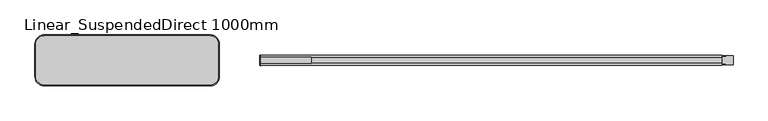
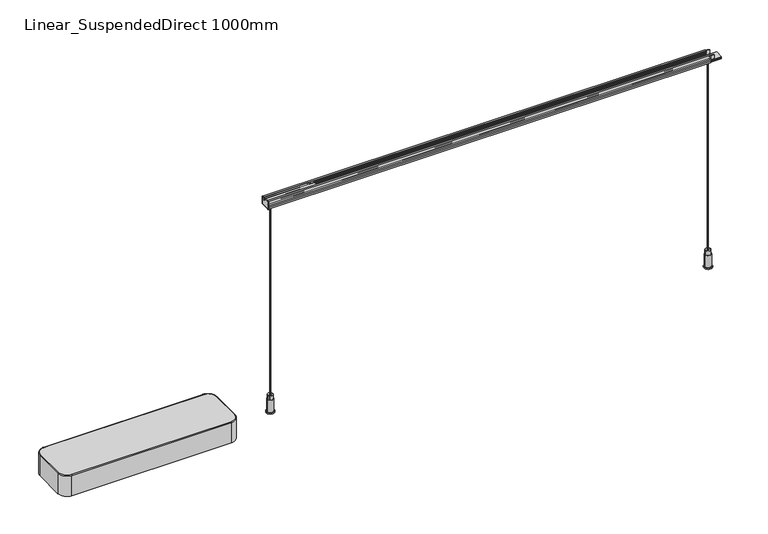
"""IFC4 building model written with IfcOpenShell, lengths in millimetres: light fixture geometry, ARTEMIDE-TurnAround-Linear_SuspendedDirect : Linear_SuspendedDirect 1000mm."""

from ifc_helpers import new_model, si_unit, point, frame, frame_2d, origin, origin_with_axes, place, context, project, spatial, polyline, circle_curve, ellipse_curve, trimmed, segment, composite_curve, outline, extrude, source, transform, mapped, element, save
from ifc_brep_helpers import plane_surface, cylinder_surface, revolved_surface, advanced_brep


def linear_suspendeddirect_1000mm_eee0d3e0(model_context):
    return source(origin(), model_context, "Body", "SolidModel", [
        advanced_brep(
        [(-109.8389602, -55.0879179, 0.0), (-470.1610045, -55.0879179, 0.0), (-490.1610045, -35.0879179, 0.0), (-490.1610045, 35.0879179, 0.0), (-470.1610045, 55.0879179, 0.0), (-109.8389602, 55.0879179, 0.0), (-89.8389602, 35.0879179, 0.0), (-89.8389602, -35.0879179, 0.0), (-109.8389602, -53.0879179, 0.0), (-91.8389602, -35.0879179, 0.0), (-91.8389602, 35.0879179, 0.0), (-109.8389602, 53.0879179, 0.0), (-470.1610045, 53.0879179, 0.0), (-488.1610045, 35.0879179, 0.0), (-488.1610045, -35.0879179, 0.0), (-470.1610045, -53.0879179, 0.0), (-488.1610045, -35.0879179, 50.0), (-470.1610045, -53.0879179, 50.0), (-109.8389602, -53.0879179, 50.0), (-91.8389602, -35.0879179, 50.0), (-91.8389602, 35.0879179, 50.0), (-109.8389602, 53.0879179, 50.0), (-470.1610045, 53.0879179, 50.0), (-488.1610045, 35.0879179, 50.0), (-109.8389602, -55.0879179, 48.0), (-470.1610045, -55.0879179, 48.0), (-490.1610045, -35.0879179, 48.0), (-490.1610045, 35.0879179, 48.0), (-470.1610045, 55.0879179, 48.0), (-109.8389602, 55.0879179, 48.0), (-89.8389602, 35.0879179, 48.0), (-89.8389602, -35.0879179, 48.0), (-109.8389602, -53.0879179, 48.0), (-91.8389602, -35.0879179, 48.0), (-91.8389602, 35.0879179, 48.0), (-109.8389602, 53.0879179, 48.0), (-470.1610045, 53.0879179, 48.0), (-488.1610045, 35.0879179, 48.0), (-488.1610045, -35.0879179, 48.0), (-470.1610045, -53.0879179, 48.0)],
        [
            (0, 1),
            (1, 2, circle_curve(frame((-470.1610045, -35.0879179, 0.0), z_axis=(0.0, 0.0, -1.0), x_axis=(-1.0, 0.0, 0.0)), 20.0)),
            (2, 3),
            (3, 4, circle_curve(frame((-470.1610045, 35.0879179, 0.0), z_axis=(0.0, 0.0, -1.0), x_axis=(-1.0, 0.0, 0.0)), 20.0)),
            (4, 5),
            (5, 6, circle_curve(frame((-109.8389602, 35.0879179, 0.0), z_axis=(0.0, 0.0, -1.0), x_axis=(-1.0, 0.0, 0.0)), 20.0)),
            (6, 7),
            (7, 0, circle_curve(frame((-109.8389602, -35.0879179, 0.0), z_axis=(0.0, 0.0, -1.0), x_axis=(-1.0, 0.0, 0.0)), 20.0)),
            (8, 9, circle_curve(frame((-109.8389602, -35.0879179, 0.0), z_axis=(0.0, 0.0, 1.0), x_axis=(-1.0, 0.0, 0.0)), 18.0)),
            (9, 10),
            (10, 11, circle_curve(frame((-109.8389602, 35.0879179, 0.0), z_axis=(0.0, 0.0, 1.0), x_axis=(-1.0, 0.0, 0.0)), 18.0)),
            (11, 12),
            (12, 13, circle_curve(frame((-470.1610045, 35.0879179, 0.0), z_axis=(0.0, 0.0, 1.0), x_axis=(-1.0, 0.0, 0.0)), 18.0)),
            (13, 14),
            (14, 15, circle_curve(frame((-470.1610045, -35.0879179, 0.0), z_axis=(0.0, 0.0, 1.0), x_axis=(-1.0, 0.0, 0.0)), 18.0)),
            (15, 8),
            (16, 17, circle_curve(frame((-470.1610045, -35.0879179, 50.0), z_axis=(0.0, 0.0, 1.0), x_axis=(-1.0, 0.0, 0.0)), 18.0)),
            (17, 18),
            (18, 19, circle_curve(frame((-109.8389602, -35.0879179, 50.0), z_axis=(0.0, 0.0, 1.0), x_axis=(0.0, -1.0, 0.0)), 18.0)),
            (19, 20),
            (20, 21, circle_curve(frame((-109.8389602, 35.0879179, 50.0), z_axis=(0.0, 0.0, 1.0), x_axis=(1.0, 0.0, 0.0)), 18.0)),
            (21, 22),
            (22, 23, circle_curve(frame((-470.1610045, 35.0879179, 50.0), z_axis=(0.0, 0.0, 1.0), x_axis=(0.0, 1.0, 0.0)), 18.0)),
            (23, 16),
            (0, 24),
            (24, 25),
            (25, 1),
            (2, 26),
            (26, 27),
            (27, 3),
            (4, 28),
            (28, 29),
            (29, 5),
            (6, 30),
            (30, 31),
            (31, 7),
            (25, 26, circle_curve(frame((-470.1610045, -35.0879179, 48.0), z_axis=(0.0, 0.0, -1.0), x_axis=(-1.0, 0.0, 0.0)), 20.0)),
            (27, 28, circle_curve(frame((-470.1610045, 35.0879179, 48.0), z_axis=(0.0, 0.0, -1.0), x_axis=(-1.0, 0.0, 0.0)), 20.0)),
            (29, 30, circle_curve(frame((-109.8389602, 35.0879179, 48.0), z_axis=(0.0, 0.0, -1.0), x_axis=(-1.0, 0.0, 0.0)), 20.0)),
            (31, 24, circle_curve(frame((-109.8389602, -35.0879179, 48.0), z_axis=(0.0, 0.0, -1.0), x_axis=(-1.0, 0.0, 0.0)), 20.0)),
            (8, 32),
            (32, 33, circle_curve(frame((-109.8389602, -35.0879179, 48.0), z_axis=(0.0, 0.0, 1.0), x_axis=(-1.0, 0.0, 0.0)), 18.0)),
            (33, 9),
            (33, 34),
            (34, 10),
            (34, 35, circle_curve(frame((-109.8389602, 35.0879179, 48.0), z_axis=(0.0, 0.0, 1.0), x_axis=(-1.0, 0.0, 0.0)), 18.0)),
            (35, 11),
            (35, 36),
            (36, 12),
            (36, 37, circle_curve(frame((-470.1610045, 35.0879179, 48.0), z_axis=(0.0, 0.0, 1.0), x_axis=(-1.0, 0.0, 0.0)), 18.0)),
            (37, 13),
            (37, 38),
            (38, 14),
            (38, 39, circle_curve(frame((-470.1610045, -35.0879179, 48.0), z_axis=(0.0, 0.0, 1.0), x_axis=(-1.0, 0.0, 0.0)), 18.0)),
            (39, 15),
            (39, 32),
            (25, 17, circle_curve(frame((-470.1610045, -53.0879179, 48.0), z_axis=(-1.0, 0.0, 0.0), x_axis=(0.0, 1.0, 0.0)), 2.0)),
            (16, 26, circle_curve(frame((-488.1610045, -35.0879179, 48.0), z_axis=(0.0, -1.0, 0.0), x_axis=(1.0, 0.0, 0.0)), 2.0)),
            (24, 18, circle_curve(frame((-109.8389602, -53.0879179, 48.0), z_axis=(-1.0, 0.0, 0.0), x_axis=(0.0, 1.0, 0.0)), 2.0)),
            (31, 19, circle_curve(frame((-91.8389602, -35.0879179, 48.0), z_axis=(0.0, -1.0, 0.0), x_axis=(-1.0, 0.0, 0.0)), 2.0)),
            (30, 20, circle_curve(frame((-91.8389602, 35.0879179, 48.0), z_axis=(0.0, -1.0, 0.0), x_axis=(-1.0, 0.0, 0.0)), 2.0)),
            (29, 21, circle_curve(frame((-109.8389602, 53.0879179, 48.0), z_axis=(1.0, 0.0, 0.0), x_axis=(0.0, -1.0, 0.0)), 2.0)),
            (28, 22, circle_curve(frame((-470.1610045, 53.0879179, 48.0), z_axis=(1.0, 0.0, 0.0), x_axis=(0.0, -1.0, 0.0)), 2.0)),
            (27, 23, circle_curve(frame((-488.1610045, 35.0879179, 48.0), z_axis=(0.0, 1.0, 0.0), x_axis=(1.0, 0.0, 0.0)), 2.0)),
        ],
        [
            plane_surface(frame((-470.1610045, -55.0879179, 0.0), z_axis=(0.0, 0.0, -1.0), x_axis=(-1.0, 0.0, 0.0))),
            plane_surface(frame((-470.1610045, -55.0879179, 50.0), z_axis=(0.0, 0.0, 1.0), x_axis=(1.0, 0.0, 0.0))),
            plane_surface(frame((-109.8389602, -55.0879179, 0.0), z_axis=(0.0, -1.0, 0.0), x_axis=(0.0, 0.0, 1.0))),
            plane_surface(frame((-490.1610045, -35.0879179, 0.0), z_axis=(-1.0, 0.0, 0.0), x_axis=(0.0, 0.0, 1.0))),
            plane_surface(frame((-470.1610045, 55.0879179, 0.0), z_axis=(0.0, 1.0, 0.0), x_axis=(0.0, 0.0, 1.0))),
            plane_surface(frame((-89.8389602, 35.0879179, 0.0), z_axis=(1.0, 0.0, 0.0), x_axis=(0.0, 0.0, 1.0))),
            cylinder_surface(frame((-470.1610045, -35.0879179, 50.0), z_axis=(0.0, 0.0, -1.0), x_axis=(-1.0, 0.0, 0.0)), 20.0),
            cylinder_surface(frame((-470.1610045, 35.0879179, 50.0), z_axis=(0.0, 0.0, -1.0), x_axis=(-1.0, 0.0, 0.0)), 20.0),
            cylinder_surface(frame((-109.8389602, 35.0879179, 50.0), z_axis=(0.0, 0.0, -1.0), x_axis=(-1.0, 0.0, 0.0)), 20.0),
            cylinder_surface(frame((-109.8389602, -35.0879179, 50.0), z_axis=(0.0, 0.0, -1.0), x_axis=(-1.0, 0.0, 0.0)), 20.0),
            revolved_surface(polyline([(-127.8389602, -35.0879179, 48.0), (-127.8389602, -35.0879179, 0.0)]), (-109.8389602, -35.0879179, 0.0), (0.0, 0.0, 1.0)),
            plane_surface(frame((-91.8389602, -35.0879179, 0.0), z_axis=(-1.0, 0.0, 0.0), x_axis=(0.0, 0.0, 1.0))),
            revolved_surface(polyline([(-127.8389602, 35.0879179, 48.0), (-127.8389602, 35.0879179, 0.0)]), (-109.8389602, 35.0879179, 0.0), (0.0, 0.0, 1.0)),
            plane_surface(frame((-109.8389602, 53.0879179, 0.0), z_axis=(0.0, -1.0, 0.0), x_axis=(0.0, 0.0, 1.0))),
            revolved_surface(polyline([(-488.1610045, 35.0879179, 48.0), (-488.1610045, 35.0879179, 0.0)]), (-470.1610045, 35.0879179, 0.0), (0.0, 0.0, 1.0)),
            plane_surface(frame((-488.1610045, 35.0879179, 0.0), z_axis=(1.0, 0.0, 0.0), x_axis=(0.0, 0.0, 1.0))),
            revolved_surface(polyline([(-488.1610045, -35.0879179, 48.0), (-488.1610045, -35.0879179, 0.0)]), (-470.1610045, -35.0879179, 0.0), (0.0, 0.0, 1.0)),
            plane_surface(frame((-470.1610045, -53.0879179, 0.0), z_axis=(0.0, 1.0, 0.0), x_axis=(0.0, 0.0, 1.0))),
            plane_surface(frame((-470.1610045, -55.0879179, 48.0), z_axis=(0.0, 0.0, -1.0), x_axis=(-1.0, 0.0, 0.0))),
            revolved_surface(trimmed(ellipse_curve(frame((-488.1610045, -35.0879179, 48.0), z_axis=(0.0, 1.0, 0.0), x_axis=(1.0, 0.0, 0.0)), 2.0, 2.0), [point((-490.1610045, -35.0879179, 48.0))], [point((-488.1610045, -35.0879179, 50.0))], True, "CARTESIAN"), (-470.1610045, -35.0879179, 50.0), (0.0, 0.0, 1.0)),
            cylinder_surface(frame((-470.1610045, -53.0879179, 48.0), z_axis=(1.0, 0.0, 0.0), x_axis=(0.0, 1.0, 0.0)), 2.0),
            revolved_surface(trimmed(ellipse_curve(frame((-109.8389602, -53.0879179, 48.0), z_axis=(-1.0, 0.0, 0.0), x_axis=(0.0, 1.0, 0.0)), 2.0, 2.0), [point((-109.8389602, -55.0879179, 48.0))], [point((-109.8389602, -53.0879179, 50.0))], True, "CARTESIAN"), (-109.8389602, -35.0879179, 50.0), (0.0, 0.0, 1.0)),
            cylinder_surface(frame((-91.8389602, -35.0879179, 48.0), z_axis=(0.0, 1.0, 0.0), x_axis=(-1.0, 0.0, 0.0)), 2.0),
            revolved_surface(trimmed(ellipse_curve(frame((-91.8389602, 35.0879179, 48.0), z_axis=(0.0, -1.0, 0.0), x_axis=(-1.0, 0.0, 0.0)), 2.0, 2.0), [point((-89.8389602, 35.0879179, 48.0))], [point((-91.8389602, 35.0879179, 50.0))], True, "CARTESIAN"), (-109.8389602, 35.0879179, 50.0), (0.0, 0.0, 1.0)),
            cylinder_surface(frame((-109.8389602, 53.0879179, 48.0), z_axis=(-1.0, 0.0, 0.0), x_axis=(0.0, -1.0, 0.0)), 2.0),
            revolved_surface(trimmed(ellipse_curve(frame((-470.1610045, 53.0879179, 48.0), z_axis=(1.0, 0.0, 0.0), x_axis=(0.0, -1.0, 0.0)), 2.0, 2.0), [point((-470.1610045, 55.0879179, 48.0))], [point((-470.1610045, 53.0879179, 50.0))], True, "CARTESIAN"), (-470.1610045, 35.0879179, 50.0), (0.0, 0.0, 1.0)),
            cylinder_surface(frame((-488.1610045, 35.0879179, 48.0), z_axis=(0.0, -1.0, 0.0), x_axis=(1.0, 0.0, 0.0)), 2.0),
        ],
        [
            (0, [[1, 2, 3, 4, 5, 6, 7, 8], [9, 10, 11, 12, 13, 14, 15, 16]]),
            (1, [[17, 18, 19, 20, 21, 22, 23, 24]]),
            (2, [[-1, 25, 26, 27]]),
            (3, [[-3, 28, 29, 30]]),
            (4, [[-5, 31, 32, 33]]),
            (5, [[-7, 34, 35, 36]]),
            (6, [[-2, -27, 37, -28]]),
            (7, [[-4, -30, 38, -31]]),
            (8, [[-6, -33, 39, -34]]),
            (9, [[-8, -36, 40, -25]]),
            (10, [[-9, 41, 42, 43]]),
            (11, [[-10, -43, 44, 45]]),
            (12, [[-11, -45, 46, 47]]),
            (13, [[-12, -47, 48, 49]]),
            (14, [[-13, -49, 50, 51]]),
            (15, [[-14, -51, 52, 53]]),
            (16, [[-15, -53, 54, 55]]),
            (17, [[-16, -55, 56, -41]]),
            (18, [[-42, -56, -54, -52, -50, -48, -46, -44]]),
            (19, [[57, -17, 58, -37]]),
            (20, [[-57, -26, 59, -18]]),
            (21, [[-59, -40, 60, -19]]),
            (22, [[-60, -35, 61, -20]]),
            (23, [[-61, -39, 62, -21]]),
            (24, [[-62, -32, 63, -22]]),
            (25, [[-63, -38, 64, -23]]),
            (26, [[-58, -24, -64, -29]]),
        ],
    ),
        extrude(outline(polyline([(110.0, 6.3498693), (110.0, -6.3499287), (0.0, -6.3499287), (0.0, 6.3498693), (110.0, 6.3498693)])), frame((0.0, 0.0, 501.1503638), z_axis=(0.0, 0.0, 1.0), x_axis=(1.0, 0.0, 0.0)), (0.0, 0.0, 1.0), 10.8496362),
        extrude(outline(composite_curve([segment(polyline([(9.9996331, 500.9503638), (9.9996331, 511.4002115), (7.9680122, 511.4001219), (7.9680122, 510.400149), (7.1680122, 510.400149), (7.1680122, 511.2500635), (6.3498693, 511.2500635), (6.3498693, 512.5), (11.0170651, 512.5), (11.0170651, 502.1565084)]), True, "CONTINUOUS"), segment(trimmed(circle_curve(frame_2d((18.0138248, 500.1749675)), 7.2719427), [point((11.0170651, 502.1565084))], [point((11.0170651, 498.1934267))], True, "CARTESIAN"), True, "CONTINUOUS"), segment(polyline([(11.0170651, 498.1934267), (11.0170651, 494.2003595), (10.000004, 494.2003595), (10.000004, 496.2003645), (6.3499287, 496.2003645), (6.3499287, 497.4503421), (9.4999904, 497.4503421), (9.4999904, 499.500364), (-9.4999904, 499.500364), (-9.4999904, 497.4503421), (-6.3499287, 497.4503421), (-6.3499287, 496.2003645), (-10.000004, 496.2003645), (-10.000004, 494.2003595), (-11.0170651, 494.2003595), (-11.0170651, 498.1934267)]), True, "CONTINUOUS"), segment(trimmed(circle_curve(frame_2d((-18.0138248, 500.1749675)), 7.2719427), [point((-11.0170651, 498.1934267))], [point((-11.0170651, 502.1565084))], True, "CARTESIAN"), True, "CONTINUOUS"), segment(polyline([(-11.0170651, 502.1565084), (-11.0170651, 512.5), (-6.3498693, 512.5), (-6.3498693, 511.2500635), (-7.1680122, 511.2500635), (-7.1680122, 510.400149), (-7.9680122, 510.400149), (-7.9680122, 511.4001219), (-9.9996331, 511.4002115), (-9.9996331, 500.9503638), (-7.9680122, 500.9503638), (-7.9680122, 501.9503638), (-7.1680122, 501.9503638), (-7.1680122, 501.1503638), (7.1680122, 501.1503638), (7.1680122, 501.9503638), (7.9680122, 501.9503638), (7.9680122, 500.9503638), (9.9996331, 500.9503638)]), True, "CONTINUOUS")], self_intersect=False)), frame((0.0, 0.0, 0.0), z_axis=(1.0, 0.0, 0.0), x_axis=(0.0, 1.0, 0.0)), (0.0, 0.0, 1.0), 1000.0),
        extrude(outline(polyline([(511.2500635, 1003.6635812), (511.2500635, 996.3364188), (510.4109032, 991.5773043), (502.004045, 991.5773043), (501.1503638, 996.418771), (501.1503638, 1003.581229), (502.004045, 1008.4226957), (510.3818614, 1008.4226957), (511.2500635, 1003.6635812)])), frame((0.0, -10.0, 0.0), z_axis=(0.0, 1.0, 0.0), x_axis=(0.0, 0.0, 1.0)), (0.0, 0.0, 1.0), 1.3991753),
        extrude(outline(composite_curve([segment(trimmed(circle_curve(frame_2d((10.0, 0.0)), 1.0), [point((11.0, 0.0))], [point((9.0, 0.0))], False, "CARTESIAN"), True, "CONTINUOUS"), segment(trimmed(circle_curve(frame_2d((10.0, 0.0)), 1.0), [point((9.0, 0.0))], [point((11.0, 0.0))], False, "CARTESIAN"), True, "CONTINUOUS")], self_intersect=False)), origin_with_axes(), (0.0, 0.0, 1.0), 500.0),
        advanced_brep(
        [(9.0, 0.0, 41.0209548), (11.0, 0.0, 41.0209548), (15.8902255, 0.0, 41.0209548), (4.1097745, 0.0, 41.0209548), (9.0, 0.0, 0.0), (11.0, 0.0, 0.0), (1.0476301, 0.0, 0.0), (18.9523699, 0.0, 0.0), (1.0476301, 0.0, 2.0209548), (18.9523699, 0.0, 2.0209548), (3.0476301, 0.0, 2.0209548), (16.9523699, 0.0, 2.0209548), (3.0476301, 0.0, 30.9721976), (16.9523699, 0.0, 30.9721976), (4.1097745, 0.0, 30.9721976), (15.8902255, 0.0, 30.9721976)],
        [
            (0, 1, circle_curve(frame((10.0, 0.0, 41.0209548), z_axis=(0.0, 0.0, -1.0), x_axis=(1.0, 0.0, 0.0)), 1.0)),
            (1, 2),
            (2, 3, circle_curve(frame((10.0, 0.0, 41.0209548), z_axis=(0.0, 0.0, 1.0), x_axis=(1.0, 0.0, 0.0)), 5.8902255)),
            (3, 0),
            (1, 0, circle_curve(frame((10.0, 0.0, 41.0209548), z_axis=(0.0, 0.0, -1.0), x_axis=(1.0, 0.0, 0.0)), 1.0)),
            (3, 2, circle_curve(frame((10.0, 0.0, 41.0209548), z_axis=(0.0, 0.0, 1.0), x_axis=(1.0, 0.0, 0.0)), 5.8902255)),
            (4, 5, circle_curve(frame((10.0, 0.0, 0.0), z_axis=(0.0, 0.0, -1.0), x_axis=(1.0, 0.0, 0.0)), 1.0)),
            (5, 1),
            (0, 4),
            (5, 4, circle_curve(frame((10.0, 0.0, 0.0), z_axis=(0.0, 0.0, -1.0), x_axis=(1.0, 0.0, 0.0)), 1.0)),
            (6, 7, circle_curve(frame((10.0, 0.0, 0.0), z_axis=(0.0, 0.0, -1.0), x_axis=(1.0, 0.0, 0.0)), 8.9523699)),
            (7, 5),
            (4, 6),
            (7, 6, circle_curve(frame((10.0, 0.0, 0.0), z_axis=(0.0, 0.0, -1.0), x_axis=(1.0, 0.0, 0.0)), 8.9523699)),
            (8, 9, circle_curve(frame((10.0, 0.0, 2.0209548), z_axis=(0.0, 0.0, -1.0), x_axis=(1.0, 0.0, 0.0)), 8.9523699)),
            (9, 7),
            (6, 8),
            (9, 8, circle_curve(frame((10.0, 0.0, 2.0209548), z_axis=(0.0, 0.0, -1.0), x_axis=(1.0, 0.0, 0.0)), 8.9523699)),
            (10, 11, circle_curve(frame((10.0, 0.0, 2.0209548), z_axis=(0.0, 0.0, -1.0), x_axis=(1.0, 0.0, 0.0)), 6.9523699)),
            (11, 9),
            (8, 10),
            (11, 10, circle_curve(frame((10.0, 0.0, 2.0209548), z_axis=(0.0, 0.0, -1.0), x_axis=(1.0, 0.0, 0.0)), 6.9523699)),
            (12, 13, circle_curve(frame((10.0, 0.0, 30.9721976), z_axis=(0.0, 0.0, -1.0), x_axis=(1.0, 0.0, 0.0)), 6.9523699)),
            (13, 11),
            (10, 12),
            (13, 12, circle_curve(frame((10.0, 0.0, 30.9721976), z_axis=(0.0, 0.0, -1.0), x_axis=(1.0, 0.0, 0.0)), 6.9523699)),
            (14, 15, circle_curve(frame((10.0, 0.0, 30.9721976), z_axis=(0.0, 0.0, -1.0), x_axis=(1.0, 0.0, 0.0)), 5.8902255)),
            (15, 13),
            (12, 14),
            (15, 14, circle_curve(frame((10.0, 0.0, 30.9721976), z_axis=(0.0, 0.0, -1.0), x_axis=(1.0, 0.0, 0.0)), 5.8902255)),
            (2, 15),
            (14, 3),
        ],
        [
            plane_surface(frame((10.0, 0.0, 41.0209548), z_axis=(0.0, 0.0, 1.0), x_axis=(1.0, 0.0, 0.0))),
            revolved_surface(polyline([(11.0, 0.0, 41.02095480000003), (11.0, 0.0, 0.0)]), (10.0, 0.0, 391.16642), (0.0, 0.0, 1.0)),
            plane_surface(frame((10.0, 0.0, 0.0), z_axis=(0.0, 0.0, -1.0), x_axis=(1.0, 0.0, 0.0))),
            cylinder_surface(frame((10.0, 0.0, 391.16642), z_axis=(0.0, 0.0, 1.0), x_axis=(1.0, 0.0, 0.0)), 8.9523699),
            plane_surface(frame((10.0, 0.0, 2.0209548), z_axis=(0.0, 0.0, 1.0), x_axis=(1.0, 0.0, 0.0))),
            cylinder_surface(frame((10.0, 0.0, 391.16642), z_axis=(0.0, 0.0, 1.0), x_axis=(1.0, 0.0, 0.0)), 6.9523699),
            plane_surface(frame((10.0, 0.0, 30.9721976), z_axis=(0.0, 0.0, 1.0), x_axis=(1.0, 0.0, 0.0))),
            cylinder_surface(frame((10.0, 0.0, 391.16642), z_axis=(0.0, 0.0, 1.0), x_axis=(1.0, 0.0, 0.0)), 5.8902255),
        ],
        [
            (0, [[1, 2, 3, 4]]),
            (0, [[5, -4, 6, -2]]),
            (1, [[7, 8, -1, 9]]),
            (1, [[10, -9, -5, -8]]),
            (2, [[11, 12, -7, 13]]),
            (2, [[14, -13, -10, -12]]),
            (3, [[15, 16, -11, 17]]),
            (3, [[18, -17, -14, -16]]),
            (4, [[19, 20, -15, 21]]),
            (4, [[22, -21, -18, -20]]),
            (5, [[23, 24, -19, 25]]),
            (5, [[26, -25, -22, -24]]),
            (6, [[27, 28, -23, 29]]),
            (6, [[30, -29, -26, -28]]),
            (7, [[-3, 31, -27, 32]]),
            (7, [[-6, -32, -30, -31]]),
        ],
    ),
        extrude(outline(polyline([(975.0, -9.5), (975.0, 9.5), (1025.0, 9.5), (1025.0, -9.5), (975.0, -9.5)])), frame((0.0, 0.0, 494.2), z_axis=(0.0, 0.0, 1.0), x_axis=(1.0, 0.0, 0.0)), (0.0, 0.0, 1.0), 2.0),
        extrude(outline(polyline([(0.0, -9.5), (0.0, 9.5), (20.0, 9.5), (20.0, -9.5), (0.0, -9.5)])), frame((0.0, 0.0, 494.2), z_axis=(0.0, 0.0, 1.0), x_axis=(1.0, 0.0, 0.0)), (0.0, 0.0, 1.0), 2.0),
        extrude(outline(composite_curve([segment(trimmed(circle_curve(frame_2d((1000.0, 0.0)), 1.0), [point((1001.0, 0.0))], [point((999.0, 0.0))], False, "CARTESIAN"), True, "CONTINUOUS"), segment(trimmed(circle_curve(frame_2d((1000.0, 0.0)), 1.0), [point((999.0, 0.0))], [point((1001.0, 0.0))], False, "CARTESIAN"), True, "CONTINUOUS")], self_intersect=False)), origin_with_axes(), (0.0, 0.0, 1.0), 500.0),
        advanced_brep(
        [(999.0, 0.0, 41.0209548), (1001.0, 0.0, 41.0209548), (1005.8902255, 0.0, 41.0209548), (994.1097745, 0.0, 41.0209548), (999.0, 0.0, 0.0), (1001.0, 0.0, 0.0), (991.0476301, 0.0, 0.0), (1008.9523699, 0.0, 0.0), (991.0476301, 0.0, 2.0209548), (1008.9523699, 0.0, 2.0209548), (993.0476301, 0.0, 2.0209548), (1006.9523699, 0.0, 2.0209548), (993.0476301, 0.0, 30.9721976), (1006.9523699, 0.0, 30.9721976), (994.1097745, 0.0, 30.9721976), (1005.8902255, 0.0, 30.9721976)],
        [
            (0, 1, circle_curve(frame((1000.0, 0.0, 41.0209548), z_axis=(0.0, 0.0, -1.0), x_axis=(1.0, 0.0, 0.0)), 1.0)),
            (1, 2),
            (2, 3, circle_curve(frame((1000.0, 0.0, 41.0209548), z_axis=(0.0, 0.0, 1.0), x_axis=(1.0, 0.0, 0.0)), 5.8902255)),
            (3, 0),
            (1, 0, circle_curve(frame((1000.0, 0.0, 41.0209548), z_axis=(0.0, 0.0, -1.0), x_axis=(1.0, 0.0, 0.0)), 1.0)),
            (3, 2, circle_curve(frame((1000.0, 0.0, 41.0209548), z_axis=(0.0, 0.0, 1.0), x_axis=(1.0, 0.0, 0.0)), 5.8902255)),
            (4, 5, circle_curve(frame((1000.0, 0.0, 0.0), z_axis=(0.0, 0.0, -1.0), x_axis=(1.0, 0.0, 0.0)), 1.0)),
            (5, 1),
            (0, 4),
            (5, 4, circle_curve(frame((1000.0, 0.0, 0.0), z_axis=(0.0, 0.0, -1.0), x_axis=(1.0, 0.0, 0.0)), 1.0)),
            (6, 7, circle_curve(frame((1000.0, 0.0, 0.0), z_axis=(0.0, 0.0, -1.0), x_axis=(1.0, 0.0, 0.0)), 8.9523699)),
            (7, 5),
            (4, 6),
            (7, 6, circle_curve(frame((1000.0, 0.0, 0.0), z_axis=(0.0, 0.0, -1.0), x_axis=(1.0, 0.0, 0.0)), 8.9523699)),
            (8, 9, circle_curve(frame((1000.0, 0.0, 2.0209548), z_axis=(0.0, 0.0, -1.0), x_axis=(1.0, 0.0, 0.0)), 8.9523699)),
            (9, 7),
            (6, 8),
            (9, 8, circle_curve(frame((1000.0, 0.0, 2.0209548), z_axis=(0.0, 0.0, -1.0), x_axis=(1.0, 0.0, 0.0)), 8.9523699)),
            (10, 11, circle_curve(frame((1000.0, 0.0, 2.0209548), z_axis=(0.0, 0.0, -1.0), x_axis=(1.0, 0.0, 0.0)), 6.9523699)),
            (11, 9),
            (8, 10),
            (11, 10, circle_curve(frame((1000.0, 0.0, 2.0209548), z_axis=(0.0, 0.0, -1.0), x_axis=(1.0, 0.0, 0.0)), 6.9523699)),
            (12, 13, circle_curve(frame((1000.0, 0.0, 30.9721976), z_axis=(0.0, 0.0, -1.0), x_axis=(1.0, 0.0, 0.0)), 6.9523699)),
            (13, 11),
            (10, 12),
            (13, 12, circle_curve(frame((1000.0, 0.0, 30.9721976), z_axis=(0.0, 0.0, -1.0), x_axis=(1.0, 0.0, 0.0)), 6.9523699)),
            (14, 15, circle_curve(frame((1000.0, 0.0, 30.9721976), z_axis=(0.0, 0.0, -1.0), x_axis=(1.0, 0.0, 0.0)), 5.8902255)),
            (15, 13),
            (12, 14),
            (15, 14, circle_curve(frame((1000.0, 0.0, 30.9721976), z_axis=(0.0, 0.0, -1.0), x_axis=(1.0, 0.0, 0.0)), 5.8902255)),
            (2, 15),
            (14, 3),
        ],
        [
            plane_surface(frame((1000.0, 0.0, 41.0209548), z_axis=(0.0, 0.0, 1.0), x_axis=(1.0, 0.0, 0.0))),
            revolved_surface(polyline([(1001.0, 0.0, 41.02095480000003), (1001.0, 0.0, 0.0)]), (1000.0, 0.0, 391.16642), (0.0, 0.0, 1.0)),
            plane_surface(frame((1000.0, 0.0, 0.0), z_axis=(0.0, 0.0, -1.0), x_axis=(1.0, 0.0, 0.0))),
            cylinder_surface(frame((1000.0, 0.0, 391.16642), z_axis=(0.0, 0.0, 1.0), x_axis=(1.0, 0.0, 0.0)), 8.9523699),
            plane_surface(frame((1000.0, 0.0, 2.0209548), z_axis=(0.0, 0.0, 1.0), x_axis=(1.0, 0.0, 0.0))),
            cylinder_surface(frame((1000.0, 0.0, 391.16642), z_axis=(0.0, 0.0, 1.0), x_axis=(1.0, 0.0, 0.0)), 6.9523699),
            plane_surface(frame((1000.0, 0.0, 30.9721976), z_axis=(0.0, 0.0, 1.0), x_axis=(1.0, 0.0, 0.0))),
            cylinder_surface(frame((1000.0, 0.0, 391.16642), z_axis=(0.0, 0.0, 1.0), x_axis=(1.0, 0.0, 0.0)), 5.8902255),
        ],
        [
            (0, [[1, 2, 3, 4]]),
            (0, [[5, -4, 6, -2]]),
            (1, [[7, 8, -1, 9]]),
            (1, [[10, -9, -5, -8]]),
            (2, [[11, 12, -7, 13]]),
            (2, [[14, -13, -10, -12]]),
            (3, [[15, 16, -11, 17]]),
            (3, [[18, -17, -14, -16]]),
            (4, [[19, 20, -15, 21]]),
            (4, [[22, -21, -18, -20]]),
            (5, [[23, 24, -19, 25]]),
            (5, [[26, -25, -22, -24]]),
            (6, [[27, 28, -23, 29]]),
            (6, [[30, -29, -26, -28]]),
            (7, [[-3, 31, -27, 32]]),
            (7, [[-6, -32, -30, -31]]),
        ],
    ),
        extrude(outline(polyline([(1025.0, -9.5), (975.0, -9.5), (975.0, 9.5), (1025.0, 9.5), (1025.0, -9.5)])), frame((0.0, 0.0, 497.4503421), z_axis=(0.0, 0.0, 1.0), x_axis=(1.0, 0.0, 0.0)), (0.0, 0.0, 1.0), 2.0496579),
        extrude(outline(polyline([(20.0, -9.5), (0.0, -9.5), (0.0, 9.5), (20.0, 9.5), (20.0, -9.5)])), frame((0.0, 0.0, 497.4503421), z_axis=(0.0, 0.0, 1.0), x_axis=(1.0, 0.0, 0.0)), (0.0, 0.0, 1.0), 2.0496579),
        extrude(outline(composite_curve([segment(trimmed(circle_curve(frame_2d((7.4508247, 504.1003638)), 1.15), [point((8.6008247, 504.1003638))], [point((6.3008247, 504.1003638))], False, "CARTESIAN"), True, "CONTINUOUS"), segment(trimmed(circle_curve(frame_2d((7.4508247, 504.1003638)), 1.15), [point((6.3008247, 504.1003638))], [point((8.6008247, 504.1003638))], False, "CARTESIAN"), True, "CONTINUOUS")], self_intersect=False)), frame((0.0, 0.0, 0.0), z_axis=(1.0, 0.0, 0.0), x_axis=(0.0, 1.0, 0.0)), (0.0, 0.0, 1.0), 1000.0),
        extrude(outline(composite_curve([segment(trimmed(circle_curve(frame_2d((7.4508247, 508.2502732)), 1.15), [point((8.6008247, 508.2502732))], [point((6.3008247, 508.2502732))], False, "CARTESIAN"), True, "CONTINUOUS"), segment(trimmed(circle_curve(frame_2d((7.4508247, 508.2502732)), 1.15), [point((6.3008247, 508.2502732))], [point((8.6008247, 508.2502732))], False, "CARTESIAN"), True, "CONTINUOUS")], self_intersect=False)), frame((0.0, 0.0, 0.0), z_axis=(1.0, 0.0, 0.0), x_axis=(0.0, 1.0, 0.0)), (0.0, 0.0, 1.0), 1000.0),
        extrude(outline(composite_curve([segment(trimmed(circle_curve(frame_2d((-7.4508247, 504.1003638)), 1.15), [point((-8.6008247, 504.1003638))], [point((-6.3008247, 504.1003638))], False, "CARTESIAN"), True, "CONTINUOUS"), segment(trimmed(circle_curve(frame_2d((-7.4508247, 504.1003638)), 1.15), [point((-6.3008247, 504.1003638))], [point((-8.6008247, 504.1003638))], False, "CARTESIAN"), True, "CONTINUOUS")], self_intersect=False)), frame((0.0, 0.0, 0.0), z_axis=(1.0, 0.0, 0.0), x_axis=(0.0, 1.0, 0.0)), (0.0, 0.0, 1.0), 1000.0),
        extrude(outline(composite_curve([segment(trimmed(circle_curve(frame_2d((-7.4508247, 508.2502732)), 1.15), [point((-8.6008247, 508.2502732))], [point((-6.3008247, 508.2502732))], False, "CARTESIAN"), True, "CONTINUOUS"), segment(trimmed(circle_curve(frame_2d((-7.4508247, 508.2502732)), 1.15), [point((-6.3008247, 508.2502732))], [point((-8.6008247, 508.2502732))], False, "CARTESIAN"), True, "CONTINUOUS")], self_intersect=False)), frame((0.0, 0.0, 0.0), z_axis=(1.0, 0.0, 0.0), x_axis=(0.0, 1.0, 0.0)), (0.0, 0.0, 1.0), 1000.0),
        advanced_brep(
        [(10.0, 9.9996331, 500.9503638), (10.0, 7.9680122, 500.9503638), (10.0, 7.9680122, 501.9503638), (10.0, 6.3251754, 501.9503638), (10.0, 6.3251754, 502.9503638), (10.0, 7.4508247, 502.9503638), (10.0, 7.4508247, 505.2503638), (10.0, 6.3251754, 505.2503638), (10.0, 6.3251754, 507.1002732), (10.0, 7.4508247, 507.1002732), (10.0, 7.4508247, 509.4002732), (10.0, 6.3251754, 509.4002732), (10.0, 6.3251754, 510.4002732), (10.0, 7.9680122, 510.400149), (10.0, 7.9680122, 511.4001219), (10.0, 9.9996331, 511.4002115), (990.0, 9.9996331, 500.9503638), (990.0, 9.9996331, 511.4002115), (990.0, 7.9680122, 511.4001219), (990.0, 7.9680122, 510.400149), (990.0, 6.3251754, 510.400149), (990.0, 6.3251754, 509.4002732), (990.0, 7.4508247, 509.4002732), (990.0, 7.4508247, 507.1002732), (990.0, 6.3251754, 507.1002732), (990.0, 6.3251754, 505.2503638), (990.0, 7.4508247, 505.2503638), (990.0, 7.4508247, 502.9503638), (990.0, 6.3251754, 502.9503638), (990.0, 6.3251754, 501.9503638), (990.0, 7.9680122, 501.9503638), (990.0, 7.9680122, 500.9503638)],
        [
            (0, 1),
            (1, 2),
            (2, 3),
            (3, 4),
            (4, 5),
            (5, 6, circle_curve(frame((10.0, 7.4508247, 504.1003638), z_axis=(1.0, 0.0, 0.0), x_axis=(0.0, -1.0, 0.0)), 1.15)),
            (6, 7),
            (7, 8),
            (8, 9),
            (9, 10, circle_curve(frame((10.0, 7.4508247, 508.2502732), z_axis=(1.0, 0.0, 0.0), x_axis=(0.0, -1.0, 0.0)), 1.15)),
            (10, 11),
            (11, 12),
            (12, 13),
            (13, 14),
            (14, 15),
            (15, 0),
            (16, 17),
            (17, 18),
            (18, 19),
            (19, 20),
            (20, 21),
            (21, 22),
            (22, 23, circle_curve(frame((990.0, 7.4508247, 508.2502732), z_axis=(-1.0, 0.0, 0.0), x_axis=(0.0, -1.0, 0.0)), 1.15)),
            (23, 24),
            (24, 25),
            (25, 26),
            (26, 27, circle_curve(frame((990.0, 7.4508247, 504.1003638), z_axis=(-1.0, 0.0, 0.0), x_axis=(0.0, -1.0, 0.0)), 1.15)),
            (27, 28),
            (28, 29),
            (29, 30),
            (30, 31),
            (31, 16),
            (0, 16),
            (31, 1),
            (30, 2),
            (29, 3),
            (28, 4),
            (27, 5),
            (26, 6),
            (25, 7),
            (24, 8),
            (23, 9),
            (22, 10),
            (21, 11),
            (20, 12),
            (19, 13),
            (18, 14),
            (17, 15),
        ],
        [
            plane_surface(frame((10.0, 0.0, 500.0), z_axis=(-1.0, 0.0, 0.0), x_axis=(0.0, 0.0, 1.0))),
            plane_surface(frame((990.0, 0.0, 500.0), z_axis=(1.0, 0.0, 0.0), x_axis=(0.0, 0.0, 1.0))),
            plane_surface(frame((10.0, 9.9996331, 500.9503638), z_axis=(0.0, 0.0, -1.0), x_axis=(1.0, 0.0, 0.0))),
            plane_surface(frame((10.0, 7.9680122, 500.9503638), z_axis=(0.0, -1.0, 0.0), x_axis=(1.0, 0.0, 0.0))),
            plane_surface(frame((10.0, 7.1680122, 501.9503638), z_axis=(0.0, 0.0, -1.0), x_axis=(1.0, 0.0, 0.0))),
            plane_surface(frame((10.0, 6.3251754, 501.9503638), z_axis=(0.0, -1.0, 0.0), x_axis=(1.0, 0.0, 0.0))),
            plane_surface(frame((10.0, 6.3251754, 502.9503638), z_axis=(0.0, 0.0, 1.0), x_axis=(1.0, 0.0, 0.0))),
            revolved_surface(polyline([(990.0, 6.3008247, 504.1003638), (10.0, 6.3008247, 504.1003638)]), (10.0, 7.4508247, 504.1003638), (1.0, 0.0, 0.0)),
            plane_surface(frame((10.0, 7.4508247, 505.2503638), z_axis=(0.0, 0.0, -1.0), x_axis=(1.0, 0.0, 0.0))),
            plane_surface(frame((10.0, 6.3251754, 505.2503638), z_axis=(0.0, -1.0, 0.0), x_axis=(1.0, 0.0, 0.0))),
            plane_surface(frame((10.0, 6.3251754, 507.1002732), z_axis=(0.0, 0.0, 1.0), x_axis=(1.0, 0.0, 0.0))),
            revolved_surface(polyline([(990.0, 6.3008247, 508.2502732), (10.0, 6.3008247, 508.2502732)]), (10.0, 7.4508247, 508.2502732), (1.0, 0.0, 0.0)),
            plane_surface(frame((10.0, 7.4508247, 509.4002732), z_axis=(0.0, 0.0, -1.0), x_axis=(1.0, 0.0, 0.0))),
            plane_surface(frame((10.0, 6.3251754, 509.4002732), z_axis=(0.0, -1.0, 0.0), x_axis=(1.0, 0.0, 0.0))),
            plane_surface(frame((10.0, 7.1680122, 510.400149), z_axis=(0.0, 0.0, 1.0), x_axis=(1.0, 0.0, 0.0))),
            plane_surface(frame((10.0, 7.9680122, 510.400149), z_axis=(0.0, -1.0, 0.0), x_axis=(1.0, 0.0, 0.0))),
            plane_surface(frame((10.0, 7.9680122, 511.4001219), z_axis=(0.0, -4.411116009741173e-05, 0.9999999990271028), x_axis=(1.0, 0.0, 0.0))),
            plane_surface(frame((10.0, 9.9996331, 511.4002115), z_axis=(0.0, 1.0, 0.0), x_axis=(1.0, 0.0, 0.0))),
        ],
        [
            (0, [[1, 2, 3, 4, 5, 6, 7, 8, 9, 10, 11, 12, 13, 14, 15, 16]]),
            (1, [[17, 18, 19, 20, 21, 22, 23, 24, 25, 26, 27, 28, 29, 30, 31, 32]]),
            (2, [[-1, 33, -32, 34]]),
            (3, [[-2, -34, -31, 35]]),
            (4, [[-35, -30, 36, -3]]),
            (5, [[-4, -36, -29, 37]]),
            (6, [[-5, -37, -28, 38]]),
            (7, [[-6, -38, -27, 39]]),
            (8, [[-7, -39, -26, 40]]),
            (9, [[-8, -40, -25, 41]]),
            (10, [[-9, -41, -24, 42]]),
            (11, [[-10, -42, -23, 43]]),
            (12, [[-11, -43, -22, 44]]),
            (13, [[-12, -44, -21, 45]]),
            (14, [[-45, -20, 46, -13]]),
            (15, [[-14, -46, -19, 47]]),
            (16, [[-15, -47, -18, 48]]),
            (17, [[-16, -48, -17, -33]]),
        ],
    ),
        advanced_brep(
        [(10.0, -9.9996331, 500.9503638), (10.0, -9.9996331, 511.4002115), (10.0, -7.9680122, 511.4001219), (10.0, -7.9680122, 510.400149), (10.0, -6.3251754, 510.4002732), (10.0, -6.3251754, 509.4002732), (10.0, -7.4508247, 509.4002732), (10.0, -7.4508247, 507.1002732), (10.0, -6.3251754, 507.1002732), (10.0, -6.3251754, 505.2503638), (10.0, -7.4508247, 505.2503638), (10.0, -7.4508247, 502.9503638), (10.0, -6.3251754, 502.9503638), (10.0, -6.3251754, 501.9503638), (10.0, -7.9680122, 501.9503638), (10.0, -7.9680122, 500.9503638), (990.0, -9.9996331, 500.9503638), (990.0, -7.9680122, 500.9503638), (990.0, -7.9680122, 501.9503638), (990.0, -6.3251754, 501.9503638), (990.0, -6.3251754, 502.9503638), (990.0, -7.4508247, 502.9503638), (990.0, -7.4508247, 505.2503638), (990.0, -6.3251754, 505.2503638), (990.0, -6.3251754, 507.1002732), (990.0, -7.4508247, 507.1002732), (990.0, -7.4508247, 509.4002732), (990.0, -6.3251754, 509.4002732), (990.0, -6.3251754, 510.4002732), (990.0, -7.9680122, 510.4002732), (990.0, -7.9680122, 511.4001219), (990.0, -9.9996331, 511.4002115)],
        [
            (0, 1),
            (1, 2),
            (2, 3),
            (3, 4),
            (4, 5),
            (5, 6),
            (6, 7, circle_curve(frame((10.0, -7.4508247, 508.2502732), z_axis=(1.0, 0.0, 0.0), x_axis=(0.0, 1.0, 0.0)), 1.15)),
            (7, 8),
            (8, 9),
            (9, 10),
            (10, 11, circle_curve(frame((10.0, -7.4508247, 504.1003638), z_axis=(1.0, 0.0, 0.0), x_axis=(0.0, 1.0, 0.0)), 1.15)),
            (11, 12),
            (12, 13),
            (13, 14),
            (14, 15),
            (15, 0),
            (16, 17),
            (17, 18),
            (18, 19),
            (19, 20),
            (20, 21),
            (21, 22, circle_curve(frame((990.0, -7.4508247, 504.1003638), z_axis=(-1.0, 0.0, 0.0), x_axis=(0.0, 1.0, 0.0)), 1.15)),
            (22, 23),
            (23, 24),
            (24, 25),
            (25, 26, circle_curve(frame((990.0, -7.4508247, 508.2502732), z_axis=(-1.0, 0.0, 0.0), x_axis=(0.0, 1.0, 0.0)), 1.15)),
            (26, 27),
            (27, 28),
            (28, 29),
            (29, 30),
            (30, 31),
            (31, 16),
            (0, 16),
            (31, 1),
            (30, 2),
            (29, 3),
            (28, 4),
            (27, 5),
            (26, 6),
            (25, 7),
            (24, 8),
            (23, 9),
            (22, 10),
            (21, 11),
            (20, 12),
            (19, 13),
            (18, 14),
            (17, 15),
        ],
        [
            plane_surface(frame((10.0, 0.0, 500.0), z_axis=(-1.0, 0.0, 0.0), x_axis=(0.0, 0.0, 1.0))),
            plane_surface(frame((990.0, 0.0, 500.0), z_axis=(1.0, 0.0, 0.0), x_axis=(0.0, 0.0, 1.0))),
            plane_surface(frame((10.0, -9.9996331, 500.9503638), z_axis=(0.0, -1.0, 0.0), x_axis=(1.0, 0.0, 0.0))),
            plane_surface(frame((10.0, -9.9996331, 511.4002115), z_axis=(0.0, 4.4111160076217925e-05, 0.9999999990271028), x_axis=(1.0, 0.0, 0.0))),
            plane_surface(frame((10.0, -7.9680122, 511.4001219), z_axis=(0.0, 1.0, 0.0), x_axis=(1.0, 0.0, 0.0))),
            plane_surface(frame((10.0, -7.1680122, 510.4002732), z_axis=(0.0, 0.0, 1.0), x_axis=(1.0, 0.0, 0.0))),
            plane_surface(frame((10.0, -6.3251754, 510.4002732), z_axis=(0.0, 1.0, 0.0), x_axis=(1.0, 0.0, 0.0))),
            plane_surface(frame((10.0, -6.3251754, 509.4002732), z_axis=(0.0, 0.0, -1.0), x_axis=(1.0, 0.0, 0.0))),
            revolved_surface(polyline([(990.0, -6.3008247, 508.2502732), (10.0, -6.3008247, 508.2502732)]), (10.0, -7.4508247, 508.2502732), (1.0, 0.0, 0.0)),
            plane_surface(frame((10.0, -7.4508247, 507.1002732), z_axis=(0.0, 0.0, 1.0), x_axis=(1.0, 0.0, 0.0))),
            plane_surface(frame((10.0, -6.3251754, 507.1002732), z_axis=(0.0, 1.0, 0.0), x_axis=(1.0, 0.0, 0.0))),
            plane_surface(frame((10.0, -6.3251754, 505.2503638), z_axis=(0.0, 0.0, -1.0), x_axis=(1.0, 0.0, 0.0))),
            revolved_surface(polyline([(990.0, -6.3008247, 504.1003638), (10.0, -6.3008247, 504.1003638)]), (10.0, -7.4508247, 504.1003638), (1.0, 0.0, 0.0)),
            plane_surface(frame((10.0, -7.4508247, 502.9503638), z_axis=(0.0, 0.0, 1.0), x_axis=(1.0, 0.0, 0.0))),
            plane_surface(frame((10.0, -6.3251754, 502.9503638), z_axis=(0.0, 1.0, 0.0), x_axis=(1.0, 0.0, 0.0))),
            plane_surface(frame((10.0, -7.1680122, 501.9503638), z_axis=(0.0, 0.0, -1.0), x_axis=(1.0, 0.0, 0.0))),
            plane_surface(frame((10.0, -7.9680122, 501.9503638), z_axis=(0.0, 1.0, 0.0), x_axis=(1.0, 0.0, 0.0))),
            plane_surface(frame((10.0, -7.9680122, 500.9503638), z_axis=(0.0, 0.0, -1.0), x_axis=(1.0, 0.0, 0.0))),
        ],
        [
            (0, [[1, 2, 3, 4, 5, 6, 7, 8, 9, 10, 11, 12, 13, 14, 15, 16]]),
            (1, [[17, 18, 19, 20, 21, 22, 23, 24, 25, 26, 27, 28, 29, 30, 31, 32]]),
            (2, [[-1, 33, -32, 34]]),
            (3, [[-2, -34, -31, 35]]),
            (4, [[-3, -35, -30, 36]]),
            (5, [[-36, -29, 37, -4]]),
            (6, [[-5, -37, -28, 38]]),
            (7, [[-6, -38, -27, 39]]),
            (8, [[-7, -39, -26, 40]]),
            (9, [[-8, -40, -25, 41]]),
            (10, [[-9, -41, -24, 42]]),
            (11, [[-10, -42, -23, 43]]),
            (12, [[-11, -43, -22, 44]]),
            (13, [[-12, -44, -21, 45]]),
            (14, [[-13, -45, -20, 46]]),
            (15, [[-46, -19, 47, -14]]),
            (16, [[-15, -47, -18, 48]]),
            (17, [[-16, -48, -17, -33]]),
        ],
    ),
        advanced_brep(
        [(-1.8, -10.4170651, 495.2003595), (-1.8, -10.4170651, 511.5), (-1.8, 10.4170651, 511.5), (-1.8, 10.4170651, 495.2003595), (0.0, -11.4170651, 512.5), (0.0, -11.4170651, 494.2003595), (0.0, 11.4170651, 494.2003595), (0.0, 11.4170651, 512.5), (-0.8, -11.4170651, 512.5), (-0.8, -11.4170651, 494.2003595), (-0.8, 11.4170651, 494.2003595), (-0.8, 11.4170651, 512.5)],
        [
            (0, 1),
            (1, 2),
            (2, 3),
            (3, 0),
            (4, 5),
            (5, 6),
            (6, 7),
            (7, 4),
            (4, 8),
            (8, 9),
            (9, 5),
            (9, 10),
            (10, 6),
            (10, 11),
            (11, 7),
            (11, 8),
            (0, 9, ellipse_curve(frame((-0.8, -10.4170651, 495.2003595), z_axis=(0.0, -0.7071067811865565, 0.7071067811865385), x_axis=(0.0, -0.7071067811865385, -0.7071067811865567)), 1.4142136, 1.0)),
            (8, 1, ellipse_curve(frame((-0.8, -10.4170651, 511.5), z_axis=(0.0, -0.7071067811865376, -0.7071067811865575), x_axis=(0.0, 0.7071067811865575, -0.7071067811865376)), 1.4142136, 1.0)),
            (3, 10, ellipse_curve(frame((-0.8, 10.4170651, 495.2003595), z_axis=(0.0, -0.7071067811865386, -0.7071067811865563), x_axis=(0.0, 0.7071067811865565, -0.7071067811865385)), 1.4142136, 1.0)),
            (2, 11, ellipse_curve(frame((-0.8, 10.4170651, 511.5), z_axis=(0.0, 0.7071067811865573, -0.7071067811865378), x_axis=(0.0, 0.7071067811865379, 0.7071067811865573)), 1.4142136, 1.0)),
        ],
        [
            plane_surface(frame((-1.8, 11.4170651, 512.5), z_axis=(-1.0, 0.0, 0.0), x_axis=(0.0, 1.0, 0.0))),
            plane_surface(frame((0.0, 11.4170651, 512.5), z_axis=(1.0, 0.0, 0.0), x_axis=(0.0, -1.0, 0.0))),
            plane_surface(frame((-1.8, -11.4170651, 494.2003595), z_axis=(0.0, -1.0, 0.0), x_axis=(1.0, 0.0, 0.0))),
            plane_surface(frame((-1.8, 11.4170651, 494.2003595), z_axis=(0.0, 0.0, -1.0), x_axis=(1.0, 0.0, 0.0))),
            plane_surface(frame((-1.8, 11.4170651, 512.5), z_axis=(0.0, 1.0, 0.0), x_axis=(1.0, 0.0, 0.0))),
            plane_surface(frame((-1.8, -11.4170651, 512.5), z_axis=(0.0, 0.0, 1.0), x_axis=(1.0, 0.0, 0.0))),
            cylinder_surface(frame((-0.8, -10.4170651, 512.5), z_axis=(0.0, 0.0, -1.0), x_axis=(1.0, 0.0, 0.0)), 1.0),
            cylinder_surface(frame((-0.8, -11.4170651, 495.2003595), z_axis=(0.0, 1.0, 0.0), x_axis=(1.0, 0.0, 0.0)), 1.0),
            cylinder_surface(frame((-0.8, 10.4170651, 494.2003595), z_axis=(0.0, 0.0, 1.0), x_axis=(1.0, 0.0, 0.0)), 1.0),
            cylinder_surface(frame((-0.8, 11.4170651, 511.5), z_axis=(0.0, -1.0, 0.0), x_axis=(1.0, 0.0, 0.0)), 1.0),
        ],
        [
            (0, [[1, 2, 3, 4]]),
            (1, [[5, 6, 7, 8]]),
            (2, [[-5, 9, 10, 11]]),
            (3, [[-6, -11, 12, 13]]),
            (4, [[-7, -13, 14, 15]]),
            (5, [[-8, -15, 16, -9]]),
            (6, [[17, -10, 18, -1]]),
            (7, [[-17, -4, 19, -12]]),
            (8, [[-19, -3, 20, -14]]),
            (9, [[-18, -16, -20, -2]]),
        ],
    ),
        extrude(outline(polyline([(511.2500635, 1003.6635812), (511.2500635, 996.3364188), (510.4109032, 991.5773043), (502.004045, 991.5773043), (501.1503638, 996.418771), (501.1503638, 1003.7459334), (502.004045, 1008.5874002), (510.3818614, 1008.5874002), (511.2500635, 1003.6635812)])), frame((0.0, 8.6008247, 0.0), z_axis=(0.0, 1.0, 0.0), x_axis=(0.0, 0.0, 1.0)), (0.0, 0.0, 1.0), 1.3991753),
    ])


if __name__ == "__main__":
    model = new_model("IFC4")
    model_context = context("Model", 3, world=origin())
    ifc_project = project(units=[si_unit("LENGTHUNIT", "METRE", prefix="MILLI")], contexts=[model_context])
    site = spatial("IfcSite", under=ifc_project)
    building = spatial("IfcBuilding", under=site)
    placement = place(None, origin())
    linear_suspendeddirect_1000mm_shape = linear_suspendeddirect_1000mm_eee0d3e0(model_context)
    element("IfcLightFixture", 1, ObjectType="ARTEMIDE-TurnAround-Linear_SuspendedDirect : Linear_SuspendedDirect 1000mm", at=placement, inside=building, context=model_context, shape_type="MappedRepresentation", body=[
        mapped(linear_suspendeddirect_1000mm_shape, transform((0.0, 0.0, 0.0), x_axis=(1.0, 0.0, 0.0), y_axis=(0.0, 1.0, 0.0), z_axis=(0.0, 0.0, 1.0))),
    ])
    save(model, "model.ifc")
